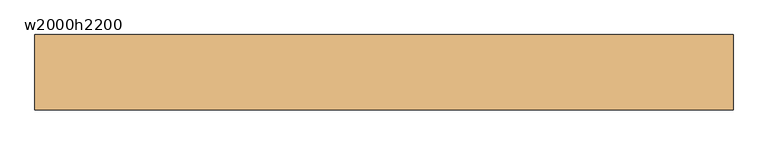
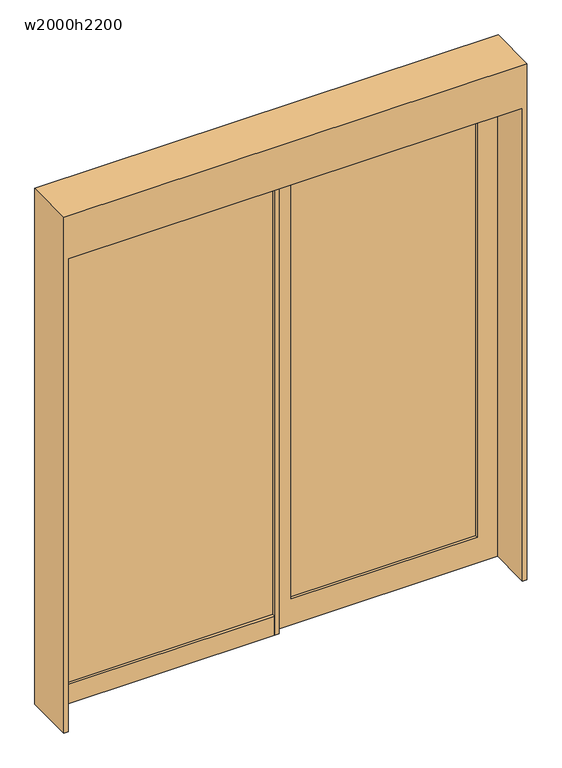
"""IFC4 building model written with IfcOpenShell, lengths in millimetres: door geometry, 片引き_自動ドア_ガラス四方框 : w2000h2200."""

from ifc_helpers import new_model, si_unit, frame, origin, origin_with_axes, place, context, project, spatial, polyline, outline, extrude, source, transform, mapped, element, save


def w2000h2200_4605e8f1(model_context):
    return source(origin(), model_context, "Body", "SweptSolid", [
        extrude(outline(polyline([(-125.0, 62.5), (-1125.0, 62.5), (-1125.0, 67.5), (-125.0, 67.5), (-125.0, 62.5)])), frame((0.0, 0.0, 90.0), z_axis=(0.0, 0.0, 1.0), x_axis=(1.0, 0.0, 0.0)), (0.0, 0.0, 1.0), 2110.0),
        extrude(outline(polyline([(-125.0, 50.0), (-1125.0, 50.0), (-1125.0, 80.0), (-125.0, 80.0), (-125.0, 50.0)])), origin_with_axes(), (0.0, 0.0, 1.0), 90.0),
        extrude(outline(polyline([(-105.0, 50.0), (-125.0, 50.0), (-125.0, 80.0), (-105.0, 80.0), (-105.0, 50.0)])), origin_with_axes(), (0.0, 0.0, 1.0), 2200.0),
        extrude(outline(polyline([(785.0, 92.5), (-35.0, 92.5), (-35.0, 97.5), (785.0, 97.5), (785.0, 92.5)])), frame((0.0, 0.0, 120.0), z_axis=(0.0, 0.0, 1.0), x_axis=(1.0, 0.0, 0.0)), (0.0, 0.0, 1.0), 1990.0),
        extrude(outline(polyline([(2400.0, -1145.0), (0.0, -1145.0), (0.0, -1125.0), (2200.0, -1125.0), (2200.0, 875.0), (0.0, 875.0), (0.0, 895.0), (2400.0, 895.0), (2400.0, -1145.0)])), frame((0.0, -110.0, 0.0), z_axis=(0.0, 1.0, 0.0), x_axis=(0.0, 0.0, 1.0)), (0.0, 0.0, 1.0), 220.0),
        extrude(outline(polyline([(2200.0, 875.0), (2200.0, -125.0), (0.0, -125.0), (0.0, 875.0), (2200.0, 875.0)]), holes=[polyline([(2110.0, 785.0), (120.0, 785.0), (120.0, -35.0), (2110.0, -35.0), (2110.0, 785.0)])]), frame((0.0, 80.0, 0.0), z_axis=(0.0, 1.0, 0.0), x_axis=(0.0, 0.0, 1.0)), (0.0, 0.0, 1.0), 30.0),
    ])


if __name__ == "__main__":
    model = new_model("IFC4")
    model_context = context("Model", 3, world=origin())
    ifc_project = project(units=[si_unit("LENGTHUNIT", "METRE", prefix="MILLI")], contexts=[model_context])
    site = spatial("IfcSite", under=ifc_project)
    building = spatial("IfcBuilding", under=site)
    placement = place(None, origin())
    w2000h2200_shape = w2000h2200_4605e8f1(model_context)
    element("IfcDoor", 1, ObjectType="片引き_自動ドア_ガラス四方框 : w2000h2200", at=placement, inside=building, context=model_context, shape_type="MappedRepresentation", body=[
        mapped(w2000h2200_shape, transform((0.0, 0.0, 0.0), x_axis=(1.0, 0.0, 0.0), y_axis=(0.0, 1.0, 0.0), z_axis=(0.0, 0.0, 1.0))),
    ])
    save(model, "model.ifc")
